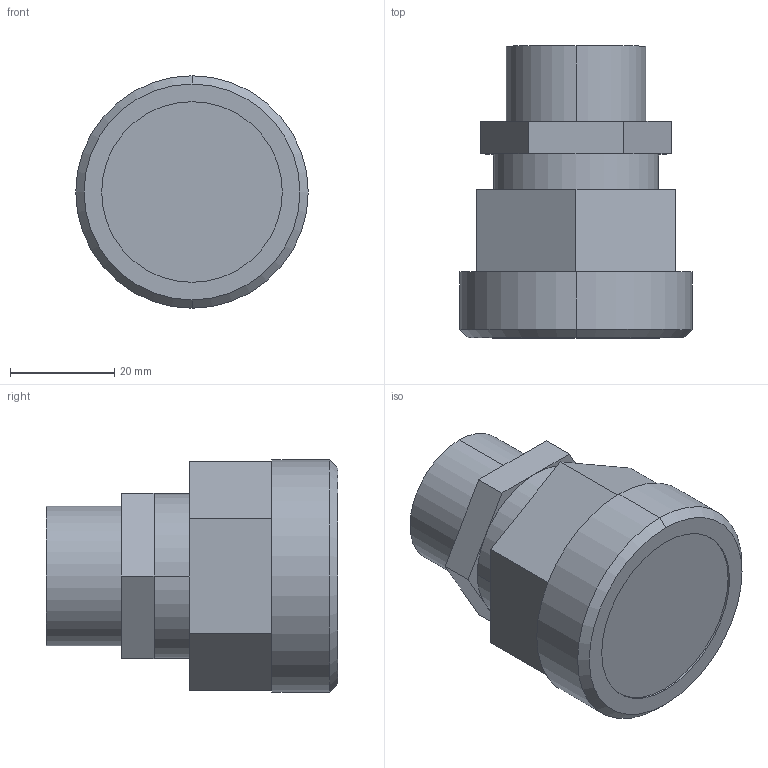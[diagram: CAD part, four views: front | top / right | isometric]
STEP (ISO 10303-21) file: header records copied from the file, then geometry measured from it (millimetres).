
FILE_DESCRIPTION (( 'STEP AP214' ), '1' );
FILE_NAME ('12-weldable-with-top-mount-adapter.STEP', '2012-11-27T21:18:22', ( '' ), ( '' ), 'SwSTEP 2.0', 'SolidWorks 2012', '' );
FILE_SCHEMA (( 'AUTOMOTIVE_DESIGN' ));
Length unit declared in the file: inch
Products named in the file (2): 12-weldable-with-top-mount-adapter; Part55
Assembly tree (1 placements, depth 2):
  12-weldable-with-top-mount-adapter
    Part55
Bounding box: 44.7 x 56.11 x 44.7 mm (x, y, z)
Volume: 53601.1 mm3; surface area: 10559.1 mm2
Topology: 1 solids, 1 shells, 39 faces, 88 edges, 56 vertices
Faces by surface type: plane 25, cylinder 10, cone 4
Entity records: 1164 total; most frequent: DIRECTION 206, CARTESIAN_POINT 187, ORIENTED_EDGE 176, EDGE_CURVE 88, AXIS2_PLACEMENT_3D 75, VECTOR 56, LINE 56, VERTEX_POINT 56
